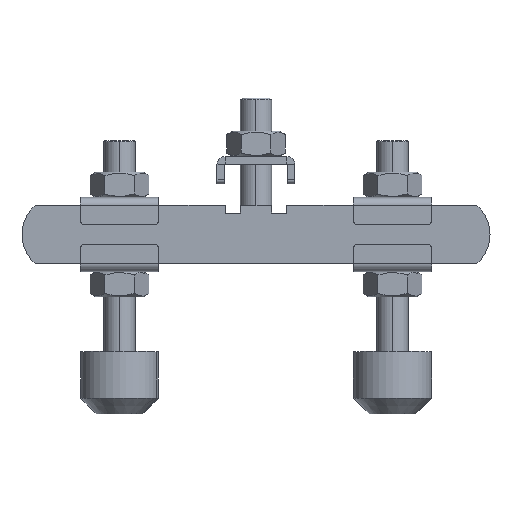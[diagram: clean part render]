
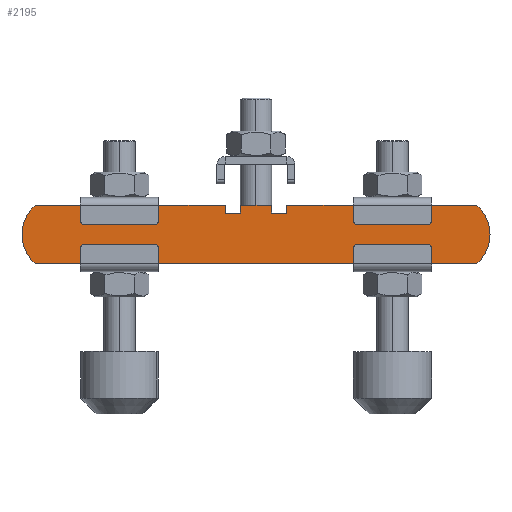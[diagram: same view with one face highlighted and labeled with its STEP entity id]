
A CAD part, top view. The second image highlights one B-rep face of the part: STEP entity #2195.
In plain terms, the highlighted planar face has unit normal (0, 0, 1).
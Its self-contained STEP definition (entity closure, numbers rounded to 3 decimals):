
#170 = DIRECTION ( 'NONE',  ( -1., 0., 0. ) ) ;
#205 = DIRECTION ( 'NONE',  ( -1., 0., 0. ) ) ;
#273 = DIRECTION ( 'NONE',  ( 0., 0., 1. ) ) ;
#281 = LINE ( 'NONE', #282, #3347 ) ;
#282 = CARTESIAN_POINT ( 'NONE',  ( -56.614, 7.5, 0. ) ) ;
#291 = DIRECTION ( 'NONE',  ( -1., 0., 0. ) ) ;
#292 = LINE ( 'NONE', #295, #3355 ) ;
#295 = CARTESIAN_POINT ( 'NONE',  ( -56.614, 7.5, 0. ) ) ;
#306 = DIRECTION ( 'NONE',  ( -1., 0., 0. ) ) ;
#344 = LINE ( 'NONE', #2695, #3361 ) ;
#381 = DIRECTION ( 'NONE',  ( 1., 0., 0. ) ) ;
#383 = LINE ( 'NONE', #461, #3422 ) ;
#392 = CARTESIAN_POINT ( 'NONE',  ( 3.9, 7.5, 0. ) ) ;
#393 = DIRECTION ( 'NONE',  ( 0., 0., 1. ) ) ;
#395 = CARTESIAN_POINT ( 'NONE',  ( 50., 0., 0. ) ) ;
#455 = LINE ( 'NONE', #392, #3407 ) ;
#461 = CARTESIAN_POINT ( 'NONE',  ( -7.9, 5.5, 0. ) ) ;
#517 = DIRECTION ( 'NONE',  ( 0., -1., 0. ) ) ;
#555 = CARTESIAN_POINT ( 'NONE',  ( 50., 0., 0. ) ) ;
#642 = ORIENTED_EDGE ( 'NONE', *, *, #2206, .F. ) ;
#645 = ORIENTED_EDGE ( 'NONE', *, *, #2889, .F. ) ;
#646 = ORIENTED_EDGE ( 'NONE', *, *, #2870, .T. ) ;
#647 = ORIENTED_EDGE ( 'NONE', *, *, #2168, .F. ) ;
#648 = ORIENTED_EDGE ( 'NONE', *, *, #2845, .F. ) ;
#649 = ORIENTED_EDGE ( 'NONE', *, *, #2891, .T. ) ;
#650 = ORIENTED_EDGE ( 'NONE', *, *, #2193, .T. ) ;
#651 = ORIENTED_EDGE ( 'NONE', *, *, #2860, .T. ) ;
#652 = ORIENTED_EDGE ( 'NONE', *, *, #2892, .T. ) ;
#653 = ORIENTED_EDGE ( 'NONE', *, *, #2874, .T. ) ;
#654 = ORIENTED_EDGE ( 'NONE', *, *, #2853, .T. ) ;
#693 = ORIENTED_EDGE ( 'NONE', *, *, #2828, .F. ) ;
#694 = ORIENTED_EDGE ( 'NONE', *, *, #2181, .F. ) ;
#706 = VERTEX_POINT ( 'NONE', #1109 ) ;
#718 = VERTEX_POINT ( 'NONE', #1134 ) ;
#724 = VERTEX_POINT ( 'NONE', #1129 ) ;
#725 = CARTESIAN_POINT ( 'NONE',  ( 3.9, 7.5, 0. ) ) ;
#785 = CARTESIAN_POINT ( 'NONE',  ( 3.9, 5.5, 0. ) ) ;
#792 = CARTESIAN_POINT ( 'NONE',  ( 60., 0., 0. ) ) ;
#808 = EDGE_LOOP ( 'NONE', ( #694, #642, #693, #646, #645, #648, #647, #650, #649, #652, #651, #654, #653 ) ) ;
#893 = CARTESIAN_POINT ( 'NONE',  ( 56.614, 7.5, 0. ) ) ;
#921 = VERTEX_POINT ( 'NONE', #1008 ) ;
#926 = VERTEX_POINT ( 'NONE', #1001 ) ;
#929 = VERTEX_POINT ( 'NONE', #1010 ) ;
#930 = VERTEX_POINT ( 'NONE', #1029 ) ;
#945 = VERTEX_POINT ( 'NONE', #1004 ) ;
#952 = VERTEX_POINT ( 'NONE', #1019 ) ;
#958 = VERTEX_POINT ( 'NONE', #893 ) ;
#981 = VERTEX_POINT ( 'NONE', #785 ) ;
#1001 = CARTESIAN_POINT ( 'NONE',  ( -3.9, 7.5, 0. ) ) ;
#1004 = CARTESIAN_POINT ( 'NONE',  ( 7.9, 5.5, 0. ) ) ;
#1008 = CARTESIAN_POINT ( 'NONE',  ( -56.614, -7.5, 0. ) ) ;
#1010 = CARTESIAN_POINT ( 'NONE',  ( -7.9, 7.5, 0. ) ) ;
#1019 = CARTESIAN_POINT ( 'NONE',  ( 7.9, 7.5, 0. ) ) ;
#1029 = CARTESIAN_POINT ( 'NONE',  ( -3.9, 5.5, 0. ) ) ;
#1046 = VERTEX_POINT ( 'NONE', #792 ) ;
#1109 = CARTESIAN_POINT ( 'NONE',  ( -7.9, 5.5, 0. ) ) ;
#1129 = CARTESIAN_POINT ( 'NONE',  ( -56.614, 7.5, 0. ) ) ;
#1134 = CARTESIAN_POINT ( 'NONE',  ( 56.614, -7.5, 0. ) ) ;
#1277 = VERTEX_POINT ( 'NONE', #725 ) ;
#1354 = LINE ( 'NONE', #1364, #3255 ) ;
#1364 = CARTESIAN_POINT ( 'NONE',  ( 7.9, 7.5, 0. ) ) ;
#1366 = DIRECTION ( 'NONE',  ( 0., 1., 0. ) ) ;
#1418 = LINE ( 'NONE', #1419, #3276 ) ;
#1419 = CARTESIAN_POINT ( 'NONE',  ( -56.614, 7.5, 0. ) ) ;
#1420 = DIRECTION ( 'NONE',  ( -1., 0., 0. ) ) ;
#1421 = FACE_OUTER_BOUND ( 'NONE', #808, .T. ) ;
#1423 = CARTESIAN_POINT ( 'NONE',  ( -50., 0., 0. ) ) ;
#1424 = PLANE ( 'NONE',  #3272 ) ;
#1425 = DIRECTION ( 'NONE',  ( 0., 0., 1. ) ) ;
#1426 = DIRECTION ( 'NONE',  ( 1., 0., 0. ) ) ;
#1464 = CARTESIAN_POINT ( 'NONE',  ( 7.9, 5.5, 0. ) ) ;
#1468 = LINE ( 'NONE', #1464, #3294 ) ;
#1472 = DIRECTION ( 'NONE',  ( 1., 0., 0. ) ) ;
#1752 = DIRECTION ( 'NONE',  ( 0., -1., 0. ) ) ;
#1754 = CARTESIAN_POINT ( 'NONE',  ( -7.9, 7.5, 0. ) ) ;
#1765 = LINE ( 'NONE', #1754, #3235 ) ;
#2168 = EDGE_CURVE ( 'NONE', #929, #706, #1765, .T. ) ;
#2181 = EDGE_CURVE ( 'NONE', #945, #952, #1354, .T. ) ;
#2193 = EDGE_CURVE ( 'NONE', #929, #724, #1418, .T. ) ;
#2195 = ADVANCED_FACE ( 'NONE', ( #1421 ), #1424, .T. ) ;
#2206 = EDGE_CURVE ( 'NONE', #981, #945, #1468, .T. ) ;
#2689 = CARTESIAN_POINT ( 'NONE',  ( -50., 0., 0. ) ) ;
#2690 = CARTESIAN_POINT ( 'NONE',  ( -56.614, -7.5, 0. ) ) ;
#2695 = CARTESIAN_POINT ( 'NONE',  ( -3.9, 7.5, 0. ) ) ;
#2696 = DIRECTION ( 'NONE',  ( 1., 0., 0. ) ) ;
#2697 = DIRECTION ( 'NONE',  ( 1., 0., 0. ) ) ;
#2699 = DIRECTION ( 'NONE',  ( 0., 1., 0. ) ) ;
#2702 = LINE ( 'NONE', #2690, #3379 ) ;
#2706 = DIRECTION ( 'NONE',  ( 0., 0., 1. ) ) ;
#2828 = EDGE_CURVE ( 'NONE', #1277, #981, #455, .T. ) ;
#2845 = EDGE_CURVE ( 'NONE', #706, #930, #383, .T. ) ;
#2853 = EDGE_CURVE ( 'NONE', #1046, #958, #3443, .T. ) ;
#2860 = EDGE_CURVE ( 'NONE', #718, #1046, #3441, .T. ) ;
#2870 = EDGE_CURVE ( 'NONE', #1277, #926, #281, .T. ) ;
#2874 = EDGE_CURVE ( 'NONE', #958, #952, #292, .T. ) ;
#2889 = EDGE_CURVE ( 'NONE', #930, #926, #344, .T. ) ;
#2891 = EDGE_CURVE ( 'NONE', #724, #921, #3378, .T. ) ;
#2892 = EDGE_CURVE ( 'NONE', #921, #718, #2702, .T. ) ;
#3235 = VECTOR ( 'NONE', #1752, 1000. ) ;
#3255 = VECTOR ( 'NONE', #1366, 1000. ) ;
#3272 = AXIS2_PLACEMENT_3D ( 'NONE', #1423, #1425, #1426 ) ;
#3276 = VECTOR ( 'NONE', #1420, 1000. ) ;
#3294 = VECTOR ( 'NONE', #1472, 1000. ) ;
#3347 = VECTOR ( 'NONE', #291, 1000. ) ;
#3355 = VECTOR ( 'NONE', #306, 1000. ) ;
#3361 = VECTOR ( 'NONE', #2699, 1000. ) ;
#3378 = CIRCLE ( 'NONE', #3380, 10. ) ;
#3379 = VECTOR ( 'NONE', #2697, 1000. ) ;
#3380 = AXIS2_PLACEMENT_3D ( 'NONE', #2689, #2706, #2696 ) ;
#3407 = VECTOR ( 'NONE', #517, 1000. ) ;
#3422 = VECTOR ( 'NONE', #381, 1000. ) ;
#3441 = CIRCLE ( 'NONE', #3454, 10. ) ;
#3443 = CIRCLE ( 'NONE', #3446, 10. ) ;
#3446 = AXIS2_PLACEMENT_3D ( 'NONE', #395, #393, #205 ) ;
#3454 = AXIS2_PLACEMENT_3D ( 'NONE', #555, #273, #170 ) ;
